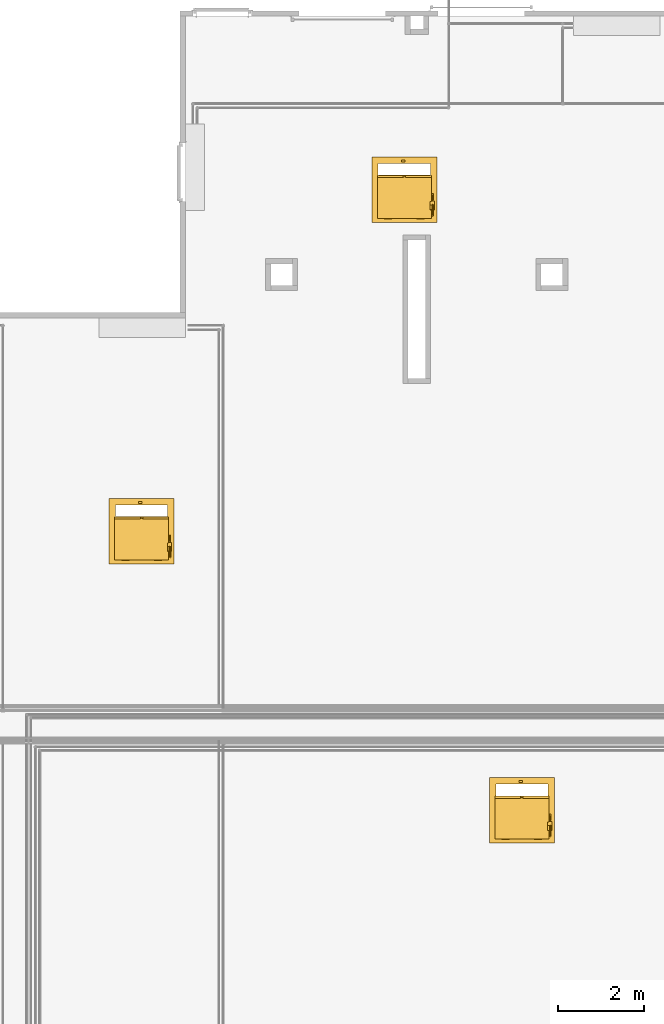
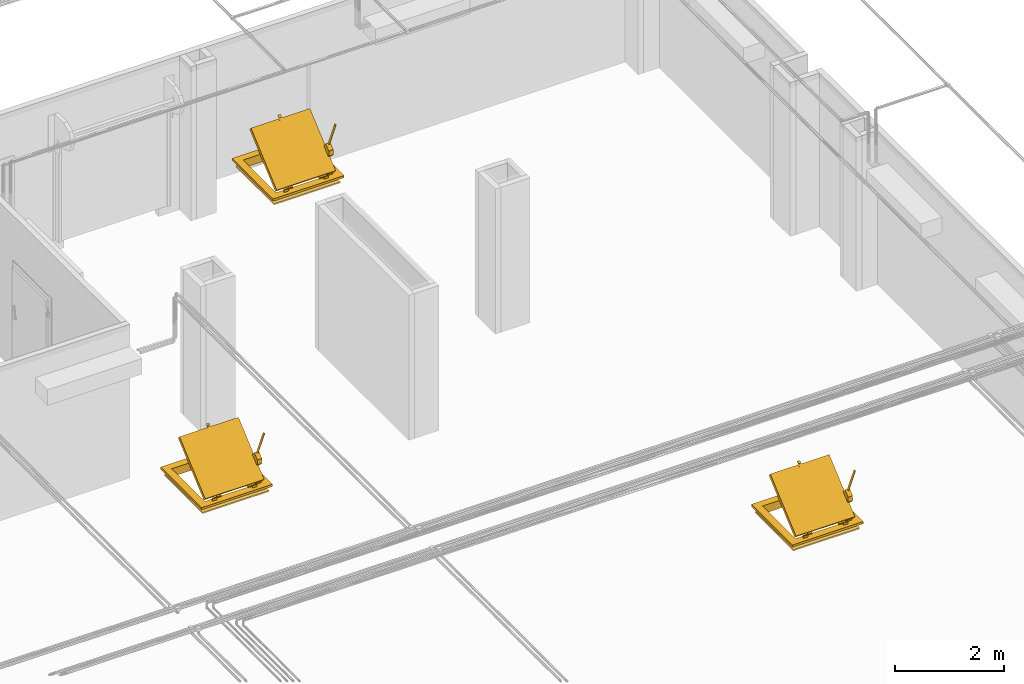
# One storey, part 39 of 652: 3 windows.
"""IFC2X3 building model written with IfcOpenShell, lengths in millimetres."""

import ifcopenshell
import ifcopenshell.guid

model = None  # the IFC model being written
_history = None  # IfcOwnerHistory: only IFC2X3 demands one
_inside = {}  # id of a spatial element -> (the spatial element, [elements in it])
_under = {}  # id of a project, library or spatial element -> (it, [spatial elements below it])
_declared = {}  # id of a project -> (the project, [libraries it declares])
_typed = {}  # id of a type object -> (the type object, [elements of that type])
_made_of = {}  # id of a material, layer set ... -> (it, [elements and type objects made of it])


def new_model(schema):
    """Start an empty IFC model of exactly this schema.

    Asked for "IFC4X3", IfcOpenShell would pick the latest addendum, in which some entities
    have other attributes; the version numbers below select the first issue.
    IFC2X3 requires an IfcOwnerHistory on every rooted entity: one is made here for all.
    """
    global model, _history
    if schema == "IFC4X3":
        model = ifcopenshell.file(schema_version=(4, 3, 0, 0))
    else:
        model = ifcopenshell.file(schema=schema)
    _inside.clear()
    _under.clear()
    _declared.clear()
    _typed.clear()
    _made_of.clear()
    _history = None
    if model.schema == "IFC2X3":
        org = make("IfcOrganization", Name="unknown")
        user = make(
            "IfcPersonAndOrganization",
            ThePerson=make("IfcPerson", FamilyName="unknown"),
            TheOrganization=org,
        )
        app = make(
            "IfcApplication",
            ApplicationDeveloper=org,
            Version="unknown",
            ApplicationFullName="unknown",
            ApplicationIdentifier="unknown",
        )
        _history = make(
            "IfcOwnerHistory",
            OwningUser=user,
            OwningApplication=app,
            ChangeAction="ADDED",
            CreationDate=0,
        )
    return model


def make(cls, **values):
    """One entity of the class cls with the attributes given. An attribute that is None is left unset."""
    return model.create_entity(
        cls, **{name: value for name, value in values.items() if value is not None}
    )


def entity(cls, *values):
    """Any entity or typed value of the class cls, its attributes in the order of the schema. None: left unset."""
    e = model.create_entity(cls)
    for i, value in enumerate(values):
        if value is not None:
            e[i] = value
    return e


def rooted(cls, **values):
    """An entity with a GlobalId (a new one), such as an element, a storey or a relation."""
    return make(cls, GlobalId=ifcopenshell.guid.new(), OwnerHistory=_history, **values)


def si_unit(unit_type, name, prefix=None):
    """IfcSIUnit, for example si_unit("LENGTHUNIT", "METRE", prefix="MILLI")."""
    return make("IfcSIUnit", UnitType=unit_type, Prefix=prefix, Name=name)


def converted_unit(unit_type, name, factor, base, dimensions=None, offset=None):
    """IfcConversionBasedUnit, such as the inch: factor (a typed value) times the base unit."""
    return make(
        "IfcConversionBasedUnit"
        if offset is None
        else "IfcConversionBasedUnitWithOffset",
        ConversionOffset=offset,
        Dimensions=None
        if dimensions is None
        else entity("IfcDimensionalExponents", *dimensions),
        UnitType=unit_type,
        Name=name,
        ConversionFactor=make(
            "IfcMeasureWithUnit", ValueComponent=factor, UnitComponent=base
        ),
    )


def assignment(units):
    """IfcUnitAssignment: the units of a project."""
    return None if units is None else make("IfcUnitAssignment", Units=units)


def point(xyz):
    """IfcCartesianPoint."""
    return None if xyz is None else make("IfcCartesianPoint", Coordinates=xyz)


def direction(xyz):
    """IfcDirection."""
    return None if xyz is None else make("IfcDirection", DirectionRatios=xyz)


def frame(location, z_axis=None, x_axis=None):
    """IfcAxis2Placement3D, a coordinate frame: its origin and axes. An axis left out is left unset."""
    return make(
        "IfcAxis2Placement3D",
        Location=point(location),
        Axis=direction(z_axis),
        RefDirection=direction(x_axis),
    )


def origin():
    """The frame at (0, 0, 0) with its axes left unset."""
    return frame((0.0, 0.0, 0.0))


def place(relative_to, where):
    """IfcLocalPlacement: puts the frame where relative to a parent placement (None: the world)."""
    return make(
        "IfcLocalPlacement", PlacementRelTo=relative_to, RelativePlacement=where
    )


def context(
    kind, dimensions, precision=None, world=None, true_north=None, identifier=None
):
    """IfcGeometricRepresentationContext, for example the 3D "Model" context."""
    return make(
        "IfcGeometricRepresentationContext",
        ContextIdentifier=identifier,
        ContextType=kind,
        CoordinateSpaceDimension=dimensions,
        Precision=precision,
        WorldCoordinateSystem=world,
        TrueNorth=true_north,
    )


def subcontext(parent, identifier, kind, view, scale=None):
    """IfcGeometricRepresentationSubContext, for example "Body" below "Model"."""
    return make(
        "IfcGeometricRepresentationSubContext",
        ContextIdentifier=identifier,
        ContextType=kind,
        ParentContext=parent,
        TargetScale=scale,
        TargetView=view,
    )


def project(units=None, contexts=None):
    """IfcProject with its units and contexts."""
    return rooted(
        "IfcProject",
        Name="project",
        RepresentationContexts=contexts,
        UnitsInContext=assignment(units),
    )


def spatial(cls, under=None, at=None, **own):
    """A site, building, storey or space (cls), placed at a placement, below another one or the project."""
    s = rooted(cls, ObjectPlacement=at, **own)
    if under is not None:
        _under.setdefault(under.id(), (under, []))[1].append(s)
    return s


def faces_of(points, faces, orient=None, outer=None):
    """IfcFace entities. A face is a list of loops; a loop is a list of indices into points, from 0.

    orient and outer hold one flag for each loop. By default every Orientation is true, the
    first loop of a face is its IfcFaceOuterBound and the others are IfcFaceBound.
    """
    made = []
    for i, loops in enumerate(faces):
        bounds = []
        for j, loop in enumerate(loops):
            is_outer = j == 0 if outer is None else outer[i][j]
            bounds.append(
                make(
                    "IfcFaceOuterBound" if is_outer else "IfcFaceBound",
                    Bound=make("IfcPolyLoop", Polygon=[points[k] for k in loop]),
                    Orientation=True if orient is None else orient[i][j],
                )
            )
        made.append(make("IfcFace", Bounds=bounds))
    return made


def faceted_brep(points, faces, orient=None, outer=None, voids=None):
    """IfcFacetedBrep: a solid bounded by flat faces; with voids (closed shells), ...WithVoids."""
    shared = [point(p) for p in points]
    hull = make("IfcClosedShell", CfsFaces=faces_of(shared, faces, orient, outer))
    if voids is None:
        return make("IfcFacetedBrep", Outer=hull)
    return make(
        "IfcFacetedBrepWithVoids",
        Outer=hull,
        Voids=[
            make(cls, CfsFaces=faces_of(shared, fs, o, b)) for cls, fs, o, b in voids
        ],
    )


def shape(context_of_items, identifier, shape_type, items):
    """IfcShapeRepresentation: the items that make up one representation, for example the "Body"."""
    return make(
        "IfcShapeRepresentation",
        ContextOfItems=context_of_items,
        RepresentationIdentifier=identifier,
        RepresentationType=shape_type,
        Items=items,
    )


def source(mapping_origin, context_of_items, identifier, shape_type, items):
    """IfcRepresentationMap: a shape defined once, which mapped items show again and again."""
    return make(
        "IfcRepresentationMap",
        MappingOrigin=mapping_origin,
        MappedRepresentation=shape(context_of_items, identifier, shape_type, items),
    )


def transform(
    local_origin,
    x_axis=None,
    y_axis=None,
    z_axis=None,
    scale=None,
    scale2=None,
    scale3=None,
    uniform=True,
):
    """IfcCartesianTransformationOperator3D, or its non-uniform kind. x_axis, y_axis, z_axis: its Axis1, 2, 3."""
    if uniform:
        return make(
            "IfcCartesianTransformationOperator3D",
            Axis1=direction(x_axis),
            Axis2=direction(y_axis),
            LocalOrigin=point(local_origin),
            Scale=scale,
            Axis3=direction(z_axis),
        )
    return make(
        "IfcCartesianTransformationOperator3DnonUniform",
        Axis1=direction(x_axis),
        Axis2=direction(y_axis),
        LocalOrigin=point(local_origin),
        Scale=scale,
        Axis3=direction(z_axis),
        Scale2=scale2,
        Scale3=scale3,
    )


def mapped(mapping_source, mapping_target):
    """IfcMappedItem: shows the shape of a source again, moved by a transform."""
    return make(
        "IfcMappedItem", MappingSource=mapping_source, MappingTarget=mapping_target
    )


def material(Name=None, Category=None):
    """IfcMaterial."""
    return make("IfcMaterial", Name=Name, Category=Category)


def material_list(materials):
    """IfcMaterialList."""
    return make("IfcMaterialList", Materials=materials)


def made_of(thing, what):
    """Note that an element or type object is made of a material, layer set ...; save() writes the relation."""
    if what is not None:
        _made_of.setdefault(what.id(), (what, []))[1].append(thing)
    return thing


def type_object(cls, material=None, **own):
    """A type object (cls), such as IfcWallType, which elements share."""
    return made_of(rooted(cls, **own), material)


def type_shapes(of_type, sources):
    """Give a type object the sources (RepresentationMaps) that its elements show as mapped items."""
    of_type.RepresentationMaps = sources


def element(
    cls,
    number,
    at=None,
    inside=None,
    cuts=None,
    type_object=None,
    material=None,
    context=None,
    identifier="Body",
    shape_type=None,
    held_by="IfcProductDefinitionShape",
    body=None,
    shapes=None,
    **own,
):
    """One element of the class cls, such as IfcWall. Its Tag is "e" and its number.

    at: its placement. inside: the storey or other place that contains it. cuts: it is an
    opening in that element (IfcRelVoidsElement). A single representation is given by context,
    identifier, shape_type and body (its items); several are given by shapes. held_by: the class
    of the entity that holds the representations. save() writes the other relations.
    """
    e = rooted(cls, Tag="e%d" % number, ObjectPlacement=at, **own)
    if body is not None:
        shapes = [shape(context, identifier, shape_type, body)]
    if shapes is not None:
        e.Representation = make(held_by, Representations=shapes)
    if inside is not None:
        _inside.setdefault(inside.id(), (inside, []))[1].append(e)
    if cuts is not None:
        rooted(
            "IfcRelVoidsElement", RelatingBuildingElement=cuts, RelatedOpeningElement=e
        )
    if type_object is not None:
        _typed.setdefault(type_object.id(), (type_object, []))[1].append(e)
    return made_of(e, material)


def aggregate(whole, parts):
    """IfcRelAggregates: a whole, such as a stair, and the parts it consists of."""
    return rooted("IfcRelAggregates", RelatingObject=whole, RelatedObjects=parts)


def save(model, path):
    """Write the relations noted so far, then the file.

    IfcRelAggregates (storeys below a building ...), IfcRelContainedInSpatialStructure (elements
    in a storey), IfcRelDefinesByType, IfcRelAssociatesMaterial and IfcRelDeclares: one each for
    every whole, place, type object, material and project.
    """
    for whole, parts in _under.values():
        aggregate(whole, parts)
    for where, things in _inside.values():
        rooted(
            "IfcRelContainedInSpatialStructure",
            RelatedElements=things,
            RelatingStructure=where,
        )
    for kind, things in _typed.values():
        rooted("IfcRelDefinesByType", RelatedObjects=things, RelatingType=kind)
    for what, things in _made_of.values():
        rooted("IfcRelAssociatesMaterial", RelatedObjects=things, RelatingMaterial=what)
    for by, libraries in _declared.values():
        rooted("IfcRelDeclares", RelatingContext=by, RelatedDefinitions=libraries)
    model.write(path)


model = new_model("IFC2X3")

# Units and contexts
model_context = context("Model", 3, precision=0.01, world=frame((0.0, 0.0, 308426.39999999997)), true_north=direction((6.123233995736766e-17, 1.0)))
plan_context = context("Plan", 3, precision=0.01, world=frame((0.0, 0.0, 308426.39999999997)), true_north=direction((6.123233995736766e-17, 1.0)))
body_context = subcontext(model_context, "Body", "Model", "MODEL_VIEW")
ifc_project = project(units=[si_unit("LENGTHUNIT", "METRE", prefix="MILLI"), si_unit("AREAUNIT", "SQUARE_METRE"), si_unit("VOLUMEUNIT", "CUBIC_METRE"), converted_unit("PLANEANGLEUNIT", "DEGREE", entity("IfcPlaneAngleMeasure", 0.017453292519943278), si_unit("PLANEANGLEUNIT", "RADIAN"), dimensions=[0, 0, 0, 0, 0, 0, 0])], contexts=[model_context, plan_context])

# Site, building, storey
site_placement = place(None, origin())
site = spatial("IfcSite", under=ifc_project, at=site_placement, Name="Default", CompositionType="ELEMENT")
building_placement = place(site_placement, origin())
building = spatial("IfcBuilding", under=site, at=building_placement, CompositionType="ELEMENT")
storey_placement = place(building_placement, frame((0.0, 0.0, 1730.6999999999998)))
storey = spatial("IfcBuildingStorey", under=building, at=storey_placement, Name="EG_Produktion_FFB", CompositionType="ELEMENT", Elevation=1730.6999999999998)

# Windows
ifc_material_1 = material(Name="Aluminium")
ifc_material_2 = material(Name="Edelstahl, gebürstet")
ifc_material_3 = material(Name="RAL 9002")
ifc_material_4 = material(Name="PVC, hart")
ifc_material_5 = material(Name="Edelstahl")
ifc_material_6 = material(Name="<Unnamed>")
ifc_material_list = material_list([ifc_material_1, ifc_material_2, ifc_material_3, ifc_material_4, ifc_material_5, ifc_material_6])
window_style = type_object("IfcWindowStyle", Name="Entrauchungsluke Typ RWA12 elektrisch:Entrauchungsluke", ConstructionType="NOTDEFINED", OperationType="NOTDEFINED", ParameterTakesPrecedence=False, Sizeable=False, material=ifc_material_list)
shared_shape = source(origin(), body_context, "Body", "Brep", [
    faceted_brep([(162.62066647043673, 657.4999999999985, 66.08964888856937), (158.0, 662.4999999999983, 68.0), (300.1301226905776, 662.4999999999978, 411.7775854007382), (304.7507891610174, 657.4999999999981, 409.8672342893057), (153.37933352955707, 657.4999999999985, 69.91035111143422), (295.50945622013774, 657.4999999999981, 413.68793651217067), (158.0, 652.4999999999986, 68.0), (300.13012269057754, 652.4999999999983, 411.7775854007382), (278.8750569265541, 657.4999999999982, 420.5652005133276), (283.3111001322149, 660.9875640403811, 418.7311793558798), (287.7471433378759, 664.475128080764, 416.89715819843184), (292.786678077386, 668.4371499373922, 414.8136317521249), (296.26458336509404, 671.1714374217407, 413.3757395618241), (299.742488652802, 673.9057249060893, 411.9378473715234), (303.22039394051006, 676.6400123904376, 410.4999551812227), (306.69829922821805, 679.3742998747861, 409.06206299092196), (282.3874984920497, 652.268653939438, 419.1130297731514), (286.2185015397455, 646.562850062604, 417.52915416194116), (289.8902238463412, 641.094275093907, 416.01113098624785), (293.561946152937, 635.6257001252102, 414.4931078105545), (321.38518845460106, 657.499999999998, 402.9899702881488), (316.9491452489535, 654.0124359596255, 404.82399144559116), (312.5131020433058, 650.5248719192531, 406.6580126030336), (307.4735673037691, 646.5628500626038, 408.7415390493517), (303.99566201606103, 643.8285625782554, 410.1794312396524), (300.51775672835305, 641.0942750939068, 411.6173234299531), (297.039851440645, 638.3599876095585, 413.0552156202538), (310.3700215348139, 673.9057249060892, 407.5440398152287), (314.04174384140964, 668.4371499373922, 406.0260166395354), (317.7134661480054, 662.968574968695, 404.507993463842), (611.6109382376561, 667.9626921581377, 1124.8700145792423), (615.1233798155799, 662.7313460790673, 1123.417843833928), (618.6358213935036, 657.4999999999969, 1121.9656730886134), (603.9489321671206, 679.3742998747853, 1128.0377657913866), (607.7799352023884, 673.6684960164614, 1126.4538901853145), (576.1256898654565, 657.4999999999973, 1139.5409033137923), (580.5617330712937, 660.9875640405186, 1137.7068821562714), (584.9977762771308, 664.47512808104, 1135.8728609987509), (589.433819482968, 667.9626921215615, 1134.03883984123), (593.8698626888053, 671.4502561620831, 1132.2048186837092), (598.9093974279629, 675.4122780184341, 1130.121292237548), (614.199778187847, 654.0124359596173, 1123.7996942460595), (609.7637349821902, 650.5248719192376, 1125.633715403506), (605.3276917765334, 647.0373078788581, 1127.467736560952), (600.8916485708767, 643.5497438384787, 1129.3017577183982), (595.852113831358, 639.5877219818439, 1131.3852841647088), (590.8125790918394, 635.625700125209, 1133.4688106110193), (583.469134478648, 646.5628500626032, 1136.5048569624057), (579.7974121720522, 652.0314250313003, 1138.022880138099), (587.1408567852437, 641.094275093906, 1134.9868337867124), (597.380755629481, 657.4999999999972, 1130.7532882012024), (158.0, 657.4999999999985, 68.0)], [[[0, 1, 2, 3]], [[1, 4, 5, 2]], [[5, 4, 6, 7]], [[6, 0, 3, 7]], [[2, 5, 8]], [[2, 8, 9]], [[2, 9, 10]], [[2, 10, 11]], [[2, 11, 12]], [[2, 12, 13]], [[2, 13, 14]], [[2, 14, 15]], [[2, 15, 3]], [[5, 16, 8]], [[5, 17, 16]], [[5, 18, 17]], [[5, 19, 18]], [[7, 19, 5]], [[3, 20, 7]], [[7, 20, 21]], [[7, 21, 22]], [[7, 22, 23]], [[7, 23, 24]], [[7, 24, 25]], [[7, 25, 26]], [[7, 26, 19]], [[3, 15, 27]], [[3, 27, 28]], [[3, 28, 29]], [[3, 29, 20]], [[30, 31, 32, 20, 29, 28, 27, 15, 33, 34]], [[10, 9, 8, 35, 36, 37, 38, 39, 40, 33, 15, 14, 13, 12, 11]], [[26, 25, 24, 23, 22, 21, 20, 32, 41, 42, 43, 44, 45, 46, 19]], [[47, 48, 35, 8, 16, 17, 18, 19, 46, 49]], [[50, 33, 40]], [[50, 40, 39]], [[50, 39, 38]], [[50, 38, 37]], [[50, 37, 36]], [[50, 36, 35]], [[50, 35, 48]], [[50, 34, 33]], [[50, 30, 34]], [[50, 31, 30]], [[50, 32, 31]], [[50, 48, 47]], [[50, 47, 49]], [[50, 49, 46]], [[50, 46, 45]], [[50, 45, 44]], [[50, 44, 43]], [[50, 43, 42]], [[50, 42, 41]], [[50, 41, 32]], [[1, 51, 4]], [[51, 1, 0]], [[6, 51, 0]], [[51, 6, 4]]]),
    faceted_brep([(468.9776566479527, 693.0, 368.3156556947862), (426.33381976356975, 693.0, 319.25953298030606), (256.5241642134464, 693.0, 466.8728145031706), (348.3724282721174, 693.0, 572.5321557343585), (461.57886530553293, 693.0, 474.1233013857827), (468.9776566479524, 596.0, 368.3156556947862), (461.5788653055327, 596.0, 474.1233013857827), (348.3724282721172, 596.0, 572.5321557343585), (256.52416421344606, 596.0, 466.8728145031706), (426.33381976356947, 596.0, 319.25953298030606)], [[[0, 1, 2, 3, 4]], [[5, 6, 7, 8, 9]], [[1, 0, 5, 9]], [[2, 1, 9, 8]], [[3, 2, 8, 7]], [[4, 3, 7, 6]], [[0, 4, 6, 5]]]),
    faceted_brep([(-293.4844221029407, 4.375000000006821, 1007.2635949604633), (-291.8334948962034, 6.5625000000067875, 1005.8284658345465), (-290.18256768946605, 8.750000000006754, 1004.3933367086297), (-288.5316404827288, 10.937500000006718, 1002.958207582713), (-286.8807132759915, 13.125000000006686, 1001.5230784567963), (-285.2297860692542, 15.312500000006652, 1000.0879493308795), (-283.57885886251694, 17.50000000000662, 998.6528202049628), (-303.2606297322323, 17.500000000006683, 976.0115327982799), (-304.91155693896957, 15.312500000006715, 977.4466619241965), (-306.5624841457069, 13.12500000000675, 978.8817910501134), (-308.21341135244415, 10.937500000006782, 980.31692017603), (-309.8643385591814, 8.750000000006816, 981.7520493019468), (-311.379908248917, 6.74185046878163, 983.0695139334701), (-312.89547793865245, 4.733700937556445, 984.3869785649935), (-314.6817626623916, 2.366850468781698, 985.9397721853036), (-316.4680473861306, 0.0, 987.4925658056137), (-296.7862765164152, 0.0, 1010.1338532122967), (-294.9999917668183, 2.3668505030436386, 1008.5810595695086), (-301.74505999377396, 15.491850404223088, 974.6940681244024), (-281.9279316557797, 15.312500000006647, 997.2176910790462), (-280.2770044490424, 13.125000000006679, 995.7825619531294), (-278.62607724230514, 10.937500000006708, 994.3474328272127), (-276.9751500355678, 8.75000000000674, 992.9123037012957), (-275.45958028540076, 6.741850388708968, 991.5948390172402), (-273.9440105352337, 4.73370077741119, 990.2773743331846), (-272.15772587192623, 2.366850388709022, 988.7245807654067), (-270.3714412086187, 0.0, 987.171787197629), (-290.05321207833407, 0.0, 964.530499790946), (-291.8394967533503, 2.3668504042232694, 966.0832933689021), (-293.62578142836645, 4.7337008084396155, 967.6360869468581), (-295.4120661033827, 7.100551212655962, 969.188880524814), (-297.1983507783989, 9.467401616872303, 970.7416741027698), (-298.71392051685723, 11.475551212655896, 972.0591387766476), (-300.2294902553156, 13.48370080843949, 973.3766034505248), (-273.6732956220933, -4.374999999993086, 990.0420454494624), (-275.32422282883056, -6.562499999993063, 991.4771745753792), (-276.9751500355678, -8.749999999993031, 992.912303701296), (-278.62607724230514, -10.937499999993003, 994.3474328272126), (-280.2770044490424, -13.124999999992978, 995.7825619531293), (-281.9279316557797, -15.312499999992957, 997.2176910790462), (-283.578858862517, -17.499999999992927, 998.6528202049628), (-303.26062973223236, -17.499999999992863, 976.0115327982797), (-301.60970252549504, -15.312499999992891, 974.5764036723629), (-299.9587753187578, -13.124999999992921, 973.1412745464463), (-298.3078481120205, -10.93749999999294, 971.7061454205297), (-296.6569209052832, -8.749999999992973, 970.2710162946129), (-295.14135124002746, -6.741850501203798, 968.9535516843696), (-293.62578157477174, -4.733701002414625, 967.6360870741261), (-291.8394968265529, -2.366850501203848, 966.083293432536), (-272.15772598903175, -2.3668505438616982, 988.7245808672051), (-304.7761995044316, -15.491850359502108, 977.3289975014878), (-285.22978606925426, -15.312499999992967, 1000.0879493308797), (-286.8807132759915, -13.124999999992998, 1001.5230784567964), (-288.5316404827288, -10.937499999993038, 1002.9582075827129), (-290.1825676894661, -8.74999999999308, 1004.3933367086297), (-291.6981374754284, -6.741850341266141, 1005.710801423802), (-293.2137072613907, -4.733700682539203, 1007.0282661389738), (-294.99999188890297, -2.366850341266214, 1008.5810596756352), (-314.6817627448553, -2.36685035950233, 985.9397722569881), (-312.89547810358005, -4.733700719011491, 984.3869787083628), (-311.10919346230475, -7.100551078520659, 982.8341851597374), (-309.3229088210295, -9.467401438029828, 981.2813916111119), (-307.8073390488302, -11.475551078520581, 979.9639269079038), (-306.29176927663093, -13.483700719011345, 978.6464622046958), (-295.71353393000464, 0.0, 969.4509425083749), (-307.034177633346, 8.660254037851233, 979.2918279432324), (-299.4870818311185, -8.6602540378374, 972.7312376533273), (-310.80772553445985, 0.0, 982.5721230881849), (-320.6486109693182, 0.0, 971.2514793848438), (-316.8750630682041, 8.660254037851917, 967.9711842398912), (-305.5544193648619, 0.0, 958.1302988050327), (-309.327967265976, -8.66025403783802, 961.4105939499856), (-310.08267684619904, 0.0, 962.0666529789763), (-313.10151516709, 4.0, 964.6908890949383), (-313.10151516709, -4.0, 964.6908890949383), (-316.120353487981, 0.0, 967.3151252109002), (-335.8021243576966, 0.0, 944.6738378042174), (-332.7832860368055, 4.0, 942.0496016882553), (-329.7644477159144, 0.0, 939.4253655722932), (-332.7832860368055, -4.0, 942.0496016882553), (-332.7832860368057, 0.0, 942.0496016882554), (-283.5788588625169, 0.0, 998.6528202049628)], [[[0, 1, 2, 3, 4, 5, 6, 7, 8, 9, 10, 11, 12, 13, 14, 15, 16, 17]], [[18, 7, 6, 19, 20, 21, 22, 23, 24, 25, 26, 27, 28, 29, 30, 31, 32, 33]], [[34, 35, 36, 37, 38, 39, 40, 41, 42, 43, 44, 45, 46, 47, 48, 27, 26, 49]], [[50, 41, 40, 51, 52, 53, 54, 55, 56, 57, 16, 15, 58, 59, 60, 61, 62, 63]], [[64, 7, 18]], [[7, 64, 65]], [[64, 18, 33]], [[64, 33, 32]], [[64, 32, 31]], [[64, 31, 30]], [[64, 30, 29]], [[64, 29, 28]], [[64, 28, 27]], [[27, 66, 64]], [[65, 8, 7]], [[65, 9, 8]], [[65, 10, 9]], [[65, 11, 10]], [[65, 12, 11]], [[65, 13, 12]], [[65, 14, 13]], [[65, 15, 14]], [[65, 67, 15]], [[41, 67, 66]], [[67, 41, 50]], [[67, 50, 63]], [[67, 63, 62]], [[67, 62, 61]], [[67, 61, 60]], [[67, 60, 59]], [[67, 59, 58]], [[67, 58, 15]], [[66, 27, 48]], [[66, 48, 47]], [[66, 47, 46]], [[66, 46, 45]], [[66, 45, 44]], [[66, 44, 43]], [[66, 43, 42]], [[66, 42, 41]], [[68, 67, 65, 69]], [[65, 64, 70, 69]], [[70, 64, 66, 71]], [[66, 67, 68, 71]], [[70, 72, 73]], [[70, 73, 69]], [[70, 71, 72]], [[72, 71, 74]], [[68, 74, 71]], [[75, 68, 69]], [[74, 68, 75]], [[75, 69, 73]], [[76, 75, 73, 77]], [[73, 72, 78, 77]], [[78, 72, 74, 79]], [[74, 75, 76, 79]], [[78, 80, 77]], [[78, 79, 80]], [[76, 80, 79]], [[76, 77, 80]], [[81, 26, 25]], [[81, 25, 24]], [[81, 24, 23]], [[81, 23, 22]], [[81, 22, 21]], [[81, 21, 20]], [[81, 20, 19]], [[81, 19, 6]], [[81, 6, 5]], [[81, 5, 4]], [[81, 4, 3]], [[81, 3, 2]], [[81, 2, 1]], [[81, 1, 0]], [[81, 0, 17]], [[81, 17, 16]], [[81, 16, 57]], [[81, 49, 26]], [[81, 34, 49]], [[81, 35, 34]], [[81, 36, 35]], [[81, 37, 36]], [[81, 38, 37]], [[81, 39, 38]], [[81, 40, 39]], [[81, 57, 56]], [[81, 56, 55]], [[81, 55, 54]], [[81, 54, 53]], [[81, 53, 52]], [[81, 52, 51]], [[81, 51, 40]]]),
    faceted_brep([(-331.3352769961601, -30.0, 1017.6416202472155), (-233.22303156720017, -30.0, 932.3539464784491), (-230.59879545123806, -30.0, 935.3727847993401), (-328.71104088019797, -30.0, 1020.6604585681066), (-331.3352769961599, 30.0, 1017.6416202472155), (-328.71104088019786, 30.0, 1020.6604585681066), (-230.59879545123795, 30.0, 935.3727847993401), (-233.22303156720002, 30.0, 932.3539464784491)], [[[0, 1, 2, 3]], [[4, 5, 6, 7]], [[1, 0, 4, 7]], [[2, 1, 7, 6]], [[3, 2, 6, 5]], [[0, 3, 5, 4]]]),
    faceted_brep([(590.5100687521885, -596.0, 110.2926474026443), (-309.1037508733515, -596.0, 892.3150099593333), (-335.34611203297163, -596.0, 862.1266267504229), (564.267707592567, -596.0, 80.10426419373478), (590.5100687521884, 596.0, 110.29264740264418), (564.267707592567, 596.0, 80.10426419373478), (-335.34611203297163, 596.0, 862.1266267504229), (-309.1037508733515, 596.0, 892.3150099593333)], [[[0, 1, 2, 3]], [[4, 5, 6, 7]], [[1, 0, 4, 7]], [[2, 1, 7, 6]], [[3, 2, 6, 5]], [[0, 3, 5, 4]]]),
    faceted_brep([(625.5178271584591, 376.0, 106.36112716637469), (645.1995980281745, 376.0, 129.00241457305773), (667.8408854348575, 376.0, 109.32064370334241), (669.0617660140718, 376.0, 105.77494904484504), (670.2826465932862, 376.0, 102.22925438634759), (671.5035271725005, 376.0, 98.68355972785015), (672.7244077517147, 376.0, 95.13786506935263), (670.2641863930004, 376.0, 92.3077041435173), (667.8039650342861, 376.0, 89.47754321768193), (665.3437436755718, 376.0, 86.64738229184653), (662.8835223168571, 376.0, 83.81722136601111), (659.2024203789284, 376.0, 84.53275509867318), (655.5213184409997, 376.0, 85.24828883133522), (651.6524966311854, 376.0, 86.00031161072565), (648.1591145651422, 376.0, 86.67935629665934), (672.7244077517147, 281.0, 95.13786506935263), (671.4412676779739, 281.0, 98.86437442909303), (670.1581276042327, 281.0, 102.59088378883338), (668.9995065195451, 281.0, 105.95576374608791), (667.8408854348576, 281.0, 109.32064370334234), (645.1995980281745, 281.0, 129.00241457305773), (625.5178271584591, 281.0, 106.36112716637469), (648.1591145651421, 281.0, 86.67935629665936), (651.8402165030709, 281.0, 85.96382256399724), (655.5213184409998, 281.0, 85.2482888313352), (659.2024203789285, 281.0, 84.53275509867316), (662.8835223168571, 281.0, 83.81722136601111), (665.3437436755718, 281.0, 86.64738229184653), (667.8039650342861, 281.0, 89.47754321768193), (670.2641863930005, 281.0, 92.30770414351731)], [[[0, 1, 2, 3, 4, 5, 6, 7, 8, 9, 10, 11, 12, 13, 14]], [[15, 16, 17, 18, 19, 20, 21, 22, 23, 24, 25, 26, 27, 28, 29]], [[1, 0, 21, 20]], [[0, 14, 22, 21]], [[4, 3, 2, 19, 18, 17, 16, 15, 6, 5]], [[23, 22, 14, 13, 12, 11, 10, 26, 25, 24]], [[9, 8, 7, 6, 15, 29, 28, 27, 26, 10]], [[2, 1, 20, 19]]]),
    faceted_brep([(643.0, 471.0, 50.0), (643.0, 471.0, 98.0), (644.8749999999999, 471.0, 101.24759526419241), (646.7499999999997, 471.0, 104.49519052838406), (648.6249999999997, 471.0, 107.74278579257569), (650.4999999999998, 471.0, 110.9903810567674), (654.2499999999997, 471.0, 110.99038105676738), (658.0, 471.0, 110.99038105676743), (661.7499999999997, 471.0, 110.99038105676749), (665.4999999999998, 471.0, 110.99038105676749), (667.3749999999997, 471.0, 107.74278579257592), (669.2499999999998, 471.0, 104.49519052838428), (671.220616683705, 471.0, 101.08198230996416), (673.0, 471.0, 98.0), (673.0, 471.0, 50.0), (643.0, 376.0, 98.0), (643.0, 376.0, 50.0), (673.0, 376.0, 50.0), (673.0, 376.0, 98.0), (671.1249999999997, 376.0, 101.24759526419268), (669.2499999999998, 376.0, 104.4951905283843), (667.3749999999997, 376.0, 107.74278579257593), (665.4999999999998, 376.0, 110.99038105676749), (661.7499999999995, 376.0, 110.9903810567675), (658.0, 376.0, 110.99038105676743), (654.2499999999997, 376.0, 110.99038105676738), (650.4999999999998, 376.0, 110.9903810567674), (648.5293833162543, 376.0, 107.57717283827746), (646.558766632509, 376.0, 104.16396461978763), (644.7793833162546, 376.0, 101.0819823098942)], [[[0, 1, 2, 3, 4, 5, 6, 7, 8, 9, 10, 11, 12, 13, 14]], [[15, 16, 17, 18, 19, 20, 21, 22, 23, 24, 25, 26, 27, 28, 29]], [[0, 14, 17, 16]], [[14, 13, 18, 17]], [[3, 2, 1, 15, 29, 28, 27, 26, 5, 4]], [[19, 18, 13, 12, 11, 10, 9, 22, 21, 20]], [[8, 7, 6, 5, 26, 25, 24, 23, 22, 9]], [[1, 0, 16, 15]]]),
    faceted_brep([(664.88136889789, -625.0, 151.64370197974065), (-278.50560638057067, -625.0, 971.7174882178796), (-330.99032869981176, -625.0, 911.3407218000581), (612.396646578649, -625.0, 91.26693556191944), (664.88136889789, 625.0, 151.64370197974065), (612.396646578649, 625.0, 91.26693556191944), (-330.99032869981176, 625.0, 911.3407218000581), (-278.50560638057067, 625.0, 971.7174882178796)], [[[0, 1, 2, 3]], [[4, 5, 6, 7]], [[1, 0, 4, 7]], [[2, 1, 7, 6]], [[3, 2, 6, 5]], [[0, 3, 5, 4]]]),
    faceted_brep([(648.1591145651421, -376.0, 86.6793562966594), (651.8402165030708, -376.0, 85.96382256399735), (655.5213184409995, -376.0, 85.24828883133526), (659.2024203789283, -376.0, 84.53275509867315), (662.883522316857, -376.0, 83.81722136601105), (665.3437436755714, -376.0, 86.64738229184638), (667.8039650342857, -376.0, 89.47754321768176), (670.2641863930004, -376.0, 92.30770414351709), (672.7244077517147, -376.0, 95.13786506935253), (671.5035271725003, -376.0, 98.6835597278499), (670.2826465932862, -376.0, 102.22925438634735), (668.9995065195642, -376.0, 105.95576374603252), (667.8408854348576, -376.0, 109.32064370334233), (645.1995980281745, -376.0, 129.00241457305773), (625.5178271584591, -376.0, 106.36112716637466), (667.8408854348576, -281.0, 109.32064370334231), (669.0617660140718, -281.0, 105.7749490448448), (670.2826465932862, -281.0, 102.22925438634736), (671.5035271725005, -281.0, 98.6835597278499), (672.7244077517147, -281.0, 95.13786506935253), (670.2641863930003, -281.0, 92.30770414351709), (667.8039650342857, -281.0, 89.47754321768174), (665.3437436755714, -281.0, 86.64738229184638), (662.883522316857, -281.0, 83.81722136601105), (659.0147005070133, -281.0, 84.56924414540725), (655.1458786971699, -281.0, 85.32126692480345), (651.6524966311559, -281.0, 86.00031161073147), (648.1591145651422, -281.0, 86.67935629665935), (625.5178271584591, -281.0, 106.36112716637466), (645.1995980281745, -281.0, 129.00241457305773)], [[[0, 1, 2, 3, 4, 5, 6, 7, 8, 9, 10, 11, 12, 13, 14]], [[15, 16, 17, 18, 19, 20, 21, 22, 23, 24, 25, 26, 27, 28, 29]], [[14, 13, 29, 28]], [[0, 14, 28, 27]], [[2, 1, 0, 27, 26, 25, 24, 23, 4, 3]], [[16, 15, 12, 11, 10, 9, 8, 19, 18, 17]], [[7, 6, 5, 4, 23, 22, 21, 20, 19, 8]], [[13, 12, 15, 29]]]),
    faceted_brep([(673.0, -471.0, 98.0), (671.1249999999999, -471.0, 101.24759526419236), (669.25, -471.0, 104.49519052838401), (667.375, -471.0, 107.74278579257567), (665.5, -471.0, 110.9903810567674), (661.7500000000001, -471.0, 110.9903810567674), (658.0, -471.0, 110.99038105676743), (654.2500000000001, -471.0, 110.99038105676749), (650.4999999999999, -471.0, 110.99038105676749), (648.6250000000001, -471.0, 107.74278579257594), (646.75, -471.0, 104.49519052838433), (644.7793833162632, -471.0, 101.08198230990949), (643.0, -471.0, 98.0), (643.0, -471.0, 50.0), (673.0, -471.0, 50.0), (673.0, -376.0, 98.0), (673.0, -376.0, 50.0), (643.0, -376.0, 50.0), (643.0, -376.0, 98.0), (644.8749999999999, -376.0, 101.24759526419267), (646.75, -376.0, 104.49519052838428), (648.6250000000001, -376.0, 107.74278579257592), (650.4999999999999, -376.0, 110.99038105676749), (654.25, -376.0, 110.99038105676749), (658.0, -376.0, 110.99038105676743), (661.7500000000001, -376.0, 110.9903810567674), (665.5, -376.0, 110.9903810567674), (667.4706166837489, -376.0, 107.57717283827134), (669.4412333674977, -376.0, 104.16396461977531), (671.2206166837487, -376.0, 101.081982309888)], [[[0, 1, 2, 3, 4, 5, 6, 7, 8, 9, 10, 11, 12, 13, 14]], [[15, 16, 17, 18, 19, 20, 21, 22, 23, 24, 25, 26, 27, 28, 29]], [[14, 13, 17, 16]], [[0, 14, 16, 15]], [[2, 1, 0, 15, 29, 28, 27, 26, 4, 3]], [[19, 18, 12, 11, 10, 9, 8, 22, 21, 20]], [[7, 6, 5, 4, 26, 25, 24, 23, 22, 8]], [[13, 12, 18, 17]]]),
    faceted_brep([(-603.0, 603.0, 50.0), (-603.0, 603.0, 0.0), (603.0, 603.0, 0.0), (603.0, 603.0, 50.0), (-753.0, 753.0, 0.0), (-753.0, 753.0, 50.0), (753.0, 753.0, 50.0), (753.0, 753.0, 0.0), (603.0, -603.0, 0.0), (603.0, -603.0, 50.0), (753.0, -753.0, 50.0), (753.0, -753.0, 0.0), (-603.0, -603.0, 0.0), (-603.0, -603.0, 50.0), (-753.0, -753.0, 50.0), (-753.0, -753.0, 0.0)], [[[0, 1, 2, 3]], [[4, 5, 6, 7]], [[3, 2, 8, 9]], [[7, 6, 10, 11]], [[9, 8, 12, 13]], [[11, 10, 14, 15]], [[7, 11, 15, 4], [1, 12, 8, 2]], [[13, 12, 1, 0]], [[3, 9, 13, 0], [5, 14, 10, 6]], [[15, 14, 5, 4]]], outer=[[True], [True], [True], [True], [True], [True], [True, False], [True], [False, True], [True]]),
    faceted_brep([(-623.0, 623.0, -100.0), (-623.0, 623.0, 0.0), (623.0, 623.0, 0.0), (623.0, 623.0, -100.0), (-703.0, 703.0, -130.0), (-703.0, 703.0, -100.0), (703.0, 703.0, -100.0), (703.0, 703.0, -130.0), (-603.0, 603.0, 0.0), (-603.0, 603.0, -130.0), (603.0, 603.0, -130.0), (603.0, 603.0, 0.0), (623.0, -623.0, 0.0), (623.0, -623.0, -100.0), (703.0, -703.0, -100.0), (703.0, -703.0, -130.0), (603.0, -603.0, -130.0), (603.0, -603.0, 0.0), (-623.0, -623.0, 0.0), (-623.0, -623.0, -100.0), (-703.0, -703.0, -100.0), (-703.0, -703.0, -130.0), (-603.0, -603.0, -130.0), (-603.0, -603.0, 0.0)], [[[0, 1, 2, 3]], [[4, 5, 6, 7]], [[8, 9, 10, 11]], [[3, 2, 12, 13]], [[7, 6, 14, 15]], [[11, 10, 16, 17]], [[13, 12, 18, 19]], [[15, 14, 20, 21]], [[17, 16, 22, 23]], [[11, 17, 23, 8], [1, 18, 12, 2]], [[19, 18, 1, 0]], [[3, 13, 19, 0], [5, 20, 14, 6]], [[21, 20, 5, 4]], [[7, 15, 21, 4], [9, 22, 16, 10]], [[23, 22, 9, 8]]], outer=[[True], [True], [True], [True], [True], [True], [True], [True], [True], [False, True], [True], [False, True], [True], [True, False], [True]]),
    faceted_brep([(130.4999999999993, 642.5000000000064, 78.0), (83.0, 642.5000000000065, 60.0), (83.0, 642.5000000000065, 50.0), (233.0, 642.5000000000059, 50.0), (233.0, 642.5000000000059, 60.0), (185.49999999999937, 642.5000000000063, 78.0), (130.4999999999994, 672.5000000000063, 78.0), (185.49999999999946, 672.5000000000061, 78.0), (233.0, 672.5000000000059, 60.0), (233.0, 672.5000000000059, 50.0), (83.0, 672.5000000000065, 50.0), (83.0, 672.5000000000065, 60.0)], [[[0, 1, 2, 3, 4, 5]], [[6, 7, 8, 9, 10, 11]], [[1, 0, 6, 11]], [[2, 1, 11, 10]], [[3, 2, 10, 9]], [[4, 3, 9, 8]], [[5, 4, 8, 7]], [[0, 5, 7, 6]]]),
    faceted_brep([(-689.0, 12.0, 99.0), (-689.0, -70.0, 99.0), (-644.0, -70.0, 99.0), (-644.0, 12.0, 99.0), (-689.0, 12.0, 50.0), (-644.0, 12.0, 50.0), (-644.0, -70.0, 50.0), (-689.0, -70.0, 50.0)], [[[0, 1, 2, 3]], [[4, 5, 6, 7]], [[1, 0, 4, 7]], [[2, 1, 7, 6]], [[3, 2, 6, 5]], [[0, 3, 5, 4]]]),
])
type_shapes(window_style, [shared_shape])
for number, where, z_axis, x_axis, name in (
    (1, (59305.00000000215, 39210.0, 3100.0), (0.0, 0.0, 1.0), (0.0, -1.0, 0.0), "Entrauchungsluke Typ RWA12 elektrisch:Entrauchungsluke"),
    (2, (56586.1740507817, 53565.0, 3100.0), (0.0, 0.0, 1.0), (0.0, -1.0, 0.0), "Entrauchungsluke Typ RWA12 elektrisch:Entrauchungsluke"),
    (3, (50510.00000000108, 45665.0, 3100.0), (0.0, 0.0, 1.0), (0.0, -1.0, 0.0), "Entrauchungsluke Typ RWA12 elektrisch:Entrauchungsluke"),
):
    element("IfcWindow", number, at=place(storey_placement, frame(where, z_axis=z_axis, x_axis=x_axis)), inside=storey, type_object=window_style, material=ifc_material_list, Name=name, ObjectType="Entrauchungsluke Typ RWA12 elektrisch:Entrauchungsluke", OverallHeight=1506.0000000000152, OverallWidth=1505.999999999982, context=body_context, shape_type="MappedRepresentation", body=[
        mapped(shared_shape, transform((0.0, 0.0, 0.0), scale=1.0)),
    ])

save(model, "model.ifc")
